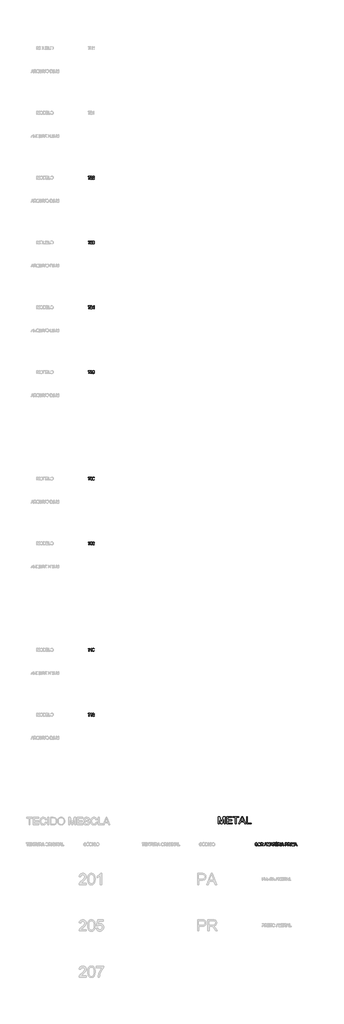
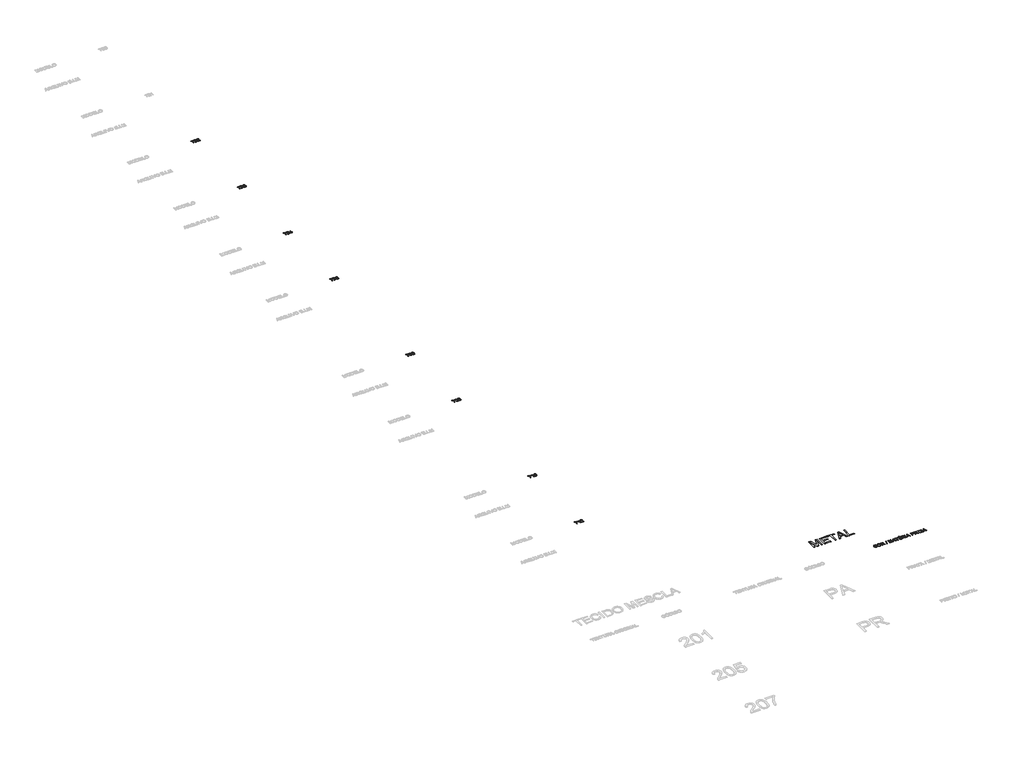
# One storey, part 17 of 19: 10 proxies.
"""IFC4 building model written with IfcOpenShell, lengths in millimetres."""

from ifc_helpers import new_model, si_unit, origin, origin_with_axes, place, context, project, spatial, polyline, outline, extrude, element, save

model = new_model("IFC4")

# Units and contexts
model_context = context("Model", 3, world=origin())
ifc_project = project(units=[si_unit("LENGTHUNIT", "METRE", prefix="MILLI")], contexts=[model_context])

# Site, building, storey
site = spatial("IfcSite", under=ifc_project)
building = spatial("IfcBuilding", under=site)
storey = spatial("IfcBuildingStorey", under=building, Name="Marelli - Linha ACTIVE - Planta Baixa", Elevation=0.0)

# Proxies
placement = place(None, origin())
element("IfcBuildingElementProxy", 1, Name="300mm Arial", ObjectType="300mm Arial", at=placement, inside=storey, context=model_context, shape_type="SweptSolid", body=[
    extrude(outline(polyline([(18804.1029253, -104673.4390831), (18841.7740416, -104683.1511677), (18834.3198327, -104706.5783531), (18824.3916173, -104727.0486868), (18811.9893956, -104744.5621691), (18797.1131674, -104759.1187998), (18780.0986251, -104770.5622291), (18761.2814611, -104778.7361071), (18740.6616752, -104783.640434), (18718.2392676, -104785.2752096), (18674.5440836, -104780.3271968), (18639.8436145, -104765.4831583), (18613.2457462, -104741.2581289), (18593.8583651, -104708.1671434), (18582.0217619, -104669.2636224), (18578.0762275, -104627.6009865), (18582.5367967, -104583.6574822), (18595.9185042, -104545.7104543), (18617.5223744, -104514.9647166), (18646.6494314, -104492.6250824), (18681.1935507, -104479.0226457), (18719.048608, -104474.4885001), (18760.352559, -104480.3562179), (18778.3212952, -104487.6908652), (18794.5012052, -104497.9593714), (18808.6255746, -104510.8904235), (18820.4276888, -104526.2127086), (18837.0651521, -104564.0309777), (18799.3940358, -104573.0072984), (18786.3342249, -104545.5357104), (18768.4919482, -104526.6909552), (18745.6464763, -104515.7924511), (18717.57708, -104512.1596164), (18685.2218586, -104516.1879242), (18658.6423844, -104528.2728478), (18638.473254, -104547.1451941), (18625.3490638, -104571.5357704), (18618.1477738, -104599.1085259), (18615.7473438, -104627.5274101), (18618.5892322, -104662.3290468), (18627.1148974, -104692.421794), (18641.6462362, -104716.6560205), (18662.5051454, -104733.8820949), (18687.511924, -104744.1735937), (18714.4868713, -104747.6040933), (18745.9315848, -104742.931992), (18772.1339799, -104728.9156879), (18791.9168342, -104705.7023341), (18804.1029253, -104673.4390831)])), origin_with_axes(), (0.0, 0.0, 1.0), 10.0),
    extrude(outline(polyline([(18879.4451579, -104633.8549804), (18881.9559525, -104598.5061192), (18889.4883364, -104567.213157), (18902.0423095, -104539.9760937), (18919.6178718, -104516.7949295), (18941.1619611, -104498.2858666), (18965.6215153, -104485.0651074), (18992.9965342, -104477.1326519), (19023.287018, -104474.4885001), (19062.8159384, -104479.454907), (19098.2613686, -104494.3541278), (19127.6919283, -104518.1376988), (19149.1762368, -104549.7571563), (19162.309624, -104587.68579), (19166.6874197, -104630.3968896), (19162.0796978, -104673.6782064), (19148.2565318, -104712.140269), (19125.981277, -104743.8149088), (19096.0172885, -104766.7339571), (19060.8753609, -104780.6398965), (19023.0662888, -104785.2752096), (18982.9303632, -104780.1524528), (18947.2825978, -104764.7841825), (18917.9256146, -104740.5591531), (18896.6620353, -104708.8661192), (18883.7493773, -104672.3998164), (18879.4451579, -104633.8549804)]), holes=[polyline([(18917.1162742, -104634.2228624), (18918.9993702, -104659.1974513), (18924.6486581, -104681.3669401), (18934.0641379, -104700.7313286), (18947.2458096, -104717.2906169), (18963.2693698, -104730.5527628), (18981.2105148, -104740.0257242), (19001.0692448, -104745.709501), (19022.8455596, -104747.6040933), (19044.994355, -104745.6911069), (19065.0876097, -104739.9521478), (19083.1253238, -104730.3872159), (19099.1074972, -104716.9963113), (19112.1925999, -104700.0875351), (19121.5391019, -104679.9689885), (19127.1470031, -104656.6406715), (19129.0163034, -104630.102584), (19125.8157301, -104596.7540812), (19116.21401, -104567.9305269), (19100.4594636, -104544.358488), (19078.8004111, -104526.7645316), (19052.6715924, -104515.8108452), (19023.5077472, -104512.1596164), (19002.4878897, -104513.9185522), (18982.9855455, -104519.1953595), (18965.0007144, -104527.9900385), (18948.5333966, -104540.302589), (18934.7884056, -104556.7262208), (18924.9705548, -104577.8541437), (18919.0798444, -104603.6863575), (18917.1162742, -104634.2228624)])]), origin_with_axes(), (0.0, 0.0, 1.0), 10.0),
    extrude(outline(polyline([(19218.4852047, -104780.5663201), (19218.4852047, -104479.1973896), (19348.347549, -104479.1973896), (19383.2503533, -104481.2299376), (19408.643408, -104487.3275817), (19427.2030546, -104498.5847708), (19441.6056347, -104516.0959537), (19450.8486699, -104537.8101885), (19453.9296816, -104561.6765329), (19448.8253189, -104591.36461), (19433.5122308, -104615.9759154), (19421.9124517, -104626.0052983), (19407.5305649, -104634.0205273), (19370.4204687, -104644.0085235), (19391.8312008, -104660.1217548), (19422.3654064, -104698.8965171), (19472.6180869, -104780.5663201), (19428.8401295, -104780.5663201), (19389.6239088, -104718.0999573), (19361.2969952, -104676.750021), (19341.3945793, -104657.2154871), (19323.4787261, -104650.0417882), (19301.6265356, -104648.717413), (19256.156321, -104648.717413), (19256.156321, -104780.5663201), (19218.4852047, -104780.5663201)]), holes=[polyline([(19256.156321, -104611.0462967), (19340.4748743, -104611.0462967), (19364.6907066, -104609.7127245), (19383.4802795, -104605.7120078), (19397.6253422, -104598.7774322), (19407.907644, -104588.6422832), (19414.170835, -104576.3826157), (19416.2585653, -104563.0744845), (19412.2762427, -104544.6987789), (19400.3292749, -104529.8915286), (19379.7738684, -104520.1242616), (19349.9662297, -104516.8685059), (19256.156321, -104516.8685059), (19256.156321, -104611.0462967)])]), origin_with_axes(), (0.0, 0.0, 1.0), 10.0),
    extrude(outline(polyline([(19604.6141468, -104780.5663201), (19689.3741585, -104479.1973896), (19723.3664548, -104479.1973896), (19638.6064432, -104780.5663201), (19604.6141468, -104780.5663201)])), origin_with_axes(), (0.0, 0.0, 1.0), 10.0),
    extrude(outline(polyline([(19873.0208505, -104780.5663201), (19873.0208505, -104479.1973896), (19937.841658, -104479.1973896), (19999.4986804, -104691.6124536), (20011.9330919, -104735.9790223), (20025.3975729, -104687.9336337), (20086.0245257, -104479.1973896), (20150.8453332, -104479.1973896), (20150.8453332, -104780.5663201), (20113.1742169, -104780.5663201), (20113.1742169, -104516.8685059), (20037.4641023, -104780.5663201), (19986.4020814, -104780.5663201), (19910.6919668, -104516.8685059), (19910.6919668, -104780.5663201), (19873.0208505, -104780.5663201)])), origin_with_axes(), (0.0, 0.0, 1.0), 10.0),
    extrude(outline(polyline([(20181.6738444, -104780.5663201), (20301.9712569, -104479.1973896), (20334.0505668, -104479.1973896), (20454.3479793, -104780.5663201), (20414.5431474, -104780.5663201), (20380.0358162, -104686.3885293), (20255.9124311, -104686.3885293), (20221.4786763, -104780.5663201), (20181.6738444, -104780.5663201)]), holes=[polyline([(20269.7447941, -104648.717413), (20366.2770296, -104648.717413), (20339.1273384, -104574.6259792), (20318.0109119, -104516.8685059), (20299.2489301, -104568.1512561), (20269.7447941, -104648.717413)])]), origin_with_axes(), (0.0, 0.0, 1.0), 10.0),
    extrude(outline(polyline([(20569.9365021, -104780.5663201), (20569.9365021, -104516.8685059), (20471.0498218, -104516.8685059), (20471.0498218, -104479.1973896), (20706.4942988, -104479.1973896), (20706.4942988, -104516.8685059), (20607.6076185, -104516.8685059), (20607.6076185, -104780.5663201), (20569.9365021, -104780.5663201)])), origin_with_axes(), (0.0, 0.0, 1.0), 10.0),
    extrude(outline(polyline([(20748.8743046, -104780.5663201), (20748.8743046, -104479.1973896), (20965.4832234, -104479.1973896), (20965.4832234, -104516.8685059), (20786.5454209, -104516.8685059), (20786.5454209, -104606.3374072), (20956.0654443, -104606.3374072), (20956.0654443, -104644.0085235), (20786.5454209, -104644.0085235), (20786.5454209, -104742.8952038), (20970.1921129, -104742.8952038), (20970.1921129, -104780.5663201), (20748.8743046, -104780.5663201)])), origin_with_axes(), (0.0, 0.0, 1.0), 10.0),
    extrude(outline(polyline([(20833.6343163, -104460.3618315), (20861.8876535, -104403.855157), (20908.9765489, -104403.855157), (20861.8876535, -104460.3618315), (20833.6343163, -104460.3618315)])), origin_with_axes(), (0.0, 0.0, 1.0), 10.0),
    extrude(outline(polyline([(21026.6987874, -104780.5663201), (21026.6987874, -104479.1973896), (21156.5611317, -104479.1973896), (21191.463936, -104481.2299376), (21216.8569907, -104487.3275817), (21235.4166373, -104498.5847708), (21249.8192174, -104516.0959537), (21259.0622526, -104537.8101885), (21262.1432643, -104561.6765329), (21257.0389016, -104591.36461), (21241.7258135, -104615.9759154), (21230.1260344, -104626.0052983), (21215.7441476, -104634.0205273), (21178.6340514, -104644.0085235), (21200.0447835, -104660.1217548), (21230.5789891, -104698.8965171), (21280.8316696, -104780.5663201), (21237.0537122, -104780.5663201), (21197.8374915, -104718.0999573), (21169.5105779, -104676.750021), (21149.6081619, -104657.2154871), (21131.6923088, -104650.0417882), (21109.8401183, -104648.717413), (21064.3699037, -104648.717413), (21064.3699037, -104780.5663201), (21026.6987874, -104780.5663201)]), holes=[polyline([(21064.3699037, -104611.0462967), (21148.688457, -104611.0462967), (21172.9042893, -104609.7127245), (21191.6938622, -104605.7120078), (21205.8389249, -104598.7774322), (21216.1212267, -104588.6422832), (21222.3844176, -104576.3826157), (21224.472148, -104563.0744845), (21220.4898254, -104544.6987789), (21208.5428576, -104529.8915286), (21187.9874511, -104520.1242616), (21158.1798124, -104516.8685059), (21064.3699037, -104516.8685059), (21064.3699037, -104611.0462967)])]), origin_with_axes(), (0.0, 0.0, 1.0), 10.0),
    extrude(outline(polyline([(21332.7766073, -104780.5663201), (21332.7766073, -104479.1973896), (21370.4477237, -104479.1973896), (21370.4477237, -104780.5663201), (21332.7766073, -104780.5663201)])), origin_with_axes(), (0.0, 0.0, 1.0), 10.0),
    extrude(outline(polyline([(21410.6940139, -104780.5663201), (21530.9914263, -104479.1973896), (21563.0707363, -104479.1973896), (21683.3681488, -104780.5663201), (21643.5633169, -104780.5663201), (21609.0559857, -104686.3885293), (21484.9326006, -104686.3885293), (21450.4988458, -104780.5663201), (21410.6940139, -104780.5663201)]), holes=[polyline([(21498.7649636, -104648.717413), (21595.2971991, -104648.717413), (21568.1475079, -104574.6259792), (21547.0310813, -104516.8685059), (21528.2690996, -104568.1512561), (21498.7649636, -104648.717413)])]), origin_with_axes(), (0.0, 0.0, 1.0), 10.0),
    extrude(outline(polyline([(21841.3366775, -104780.5663201), (21841.3366775, -104479.1973896), (21953.0256512, -104479.1973896), (21998.0544074, -104482.0668692), (22018.1315673, -104487.4287493), (22034.6586659, -104496.1567496), (22047.9667971, -104508.6463433), (22058.3870546, -104525.2930036), (22065.1192951, -104544.9287051), (22067.3633753, -104566.3854225), (22065.8481613, -104584.8852883), (22061.3025194, -104601.9044291), (22053.7264496, -104617.4428449), (22043.1199518, -104631.5005356), (22028.5587226, -104643.1531978), (22009.1184584, -104651.476528), (21984.7991593, -104656.470526), (21955.6008252, -104658.1351921), (21879.0077938, -104658.1351921), (21879.0077938, -104780.5663201), (21841.3366775, -104780.5663201)]), holes=[polyline([(21879.0077938, -104620.4640758), (21957.8081172, -104620.4640758), (21991.2118023, -104617.005985), (22013.284722, -104606.6317128), (22025.5903748, -104589.9850525), (22029.692259, -104567.7097977), (22027.2734349, -104550.7872259), (22020.0169625, -104536.5134045), (22008.8241528, -104525.7712502), (21994.5963167, -104519.4436799), (21956.9252004, -104516.8685059), (21879.0077938, -104516.8685059), (21879.0077938, -104620.4640758)])]), origin_with_axes(), (0.0, 0.0, 1.0), 10.0),
    extrude(outline(polyline([(22119.1611602, -104780.5663201), (22119.1611602, -104479.1973896), (22249.0235045, -104479.1973896), (22283.9263088, -104481.2299376), (22309.3193635, -104487.3275817), (22327.8790102, -104498.5847708), (22342.2815903, -104516.0959537), (22351.5246254, -104537.8101885), (22354.6056372, -104561.6765329), (22349.5012745, -104591.36461), (22334.1881864, -104615.9759154), (22322.5884073, -104626.0052983), (22308.2065205, -104634.0205273), (22271.0964242, -104644.0085235), (22292.5071564, -104660.1217548), (22323.041362, -104698.8965171), (22373.2940425, -104780.5663201), (22329.5160851, -104780.5663201), (22290.2998644, -104718.0999573), (22261.9729508, -104676.750021), (22242.0705348, -104657.2154871), (22224.1546817, -104650.0417882), (22202.3024911, -104648.717413), (22156.8322765, -104648.717413), (22156.8322765, -104780.5663201), (22119.1611602, -104780.5663201)]), holes=[polyline([(22156.8322765, -104611.0462967), (22241.1508298, -104611.0462967), (22265.3666622, -104609.7127245), (22284.1562351, -104605.7120078), (22298.3012978, -104598.7774322), (22308.5835996, -104588.6422832), (22314.8467905, -104576.3826157), (22316.9345208, -104563.0744845), (22312.9521982, -104544.6987789), (22301.0052305, -104529.8915286), (22280.449824, -104520.1242616), (22250.6421853, -104516.8685059), (22156.8322765, -104516.8685059), (22156.8322765, -104611.0462967)])]), origin_with_axes(), (0.0, 0.0, 1.0), 10.0),
    extrude(outline(polyline([(22425.2389802, -104780.5663201), (22425.2389802, -104479.1973896), (22462.9100965, -104479.1973896), (22462.9100965, -104780.5663201), (22425.2389802, -104780.5663201)])), origin_with_axes(), (0.0, 0.0, 1.0), 10.0),
    extrude(outline(polyline([(22538.2523291, -104780.5663201), (22538.2523291, -104479.1973896), (22603.0731367, -104479.1973896), (22664.7301591, -104691.6124536), (22677.1645705, -104735.9790223), (22690.6290515, -104687.9336337), (22751.2560044, -104479.1973896), (22816.0768119, -104479.1973896), (22816.0768119, -104780.5663201), (22778.4056956, -104780.5663201), (22778.4056956, -104516.8685059), (22702.695581, -104780.5663201), (22651.6335601, -104780.5663201), (22575.9234454, -104516.8685059), (22575.9234454, -104780.5663201), (22538.2523291, -104780.5663201)])), origin_with_axes(), (0.0, 0.0, 1.0), 10.0),
    extrude(outline(polyline([(22846.9053231, -104780.5663201), (22967.2027355, -104479.1973896), (22999.2820455, -104479.1973896), (23119.5794579, -104780.5663201), (23079.774626, -104780.5663201), (23045.2672949, -104686.3885293), (22921.1439097, -104686.3885293), (22886.710155, -104780.5663201), (22846.9053231, -104780.5663201)]), holes=[polyline([(22934.9762727, -104648.717413), (23031.5085083, -104648.717413), (23004.358817, -104574.6259792), (22983.2423905, -104516.8685059), (22964.4804088, -104568.1512561), (22934.9762727, -104648.717413)])]), origin_with_axes(), (0.0, 0.0, 1.0), 10.0),
])
element("IfcBuildingElementProxy", 2, Name="300mm Arial", ObjectType="300mm Arial", at=placement, inside=storey, context=model_context, shape_type="SweptSolid", body=[
    extrude(outline(polyline([(574.6453917, -32521.5773955), (574.6453917, -32483.9062792), (772.4187523, -32483.9062792), (772.4187523, -32514.3669084), (744.2297944, -32550.0422648), (716.316748, -32595.4113119), (691.6962455, -32646.3353771), (673.3849192, -32698.6757879), (664.4085985, -32737.8368263), (659.4054034, -32780.5663201), (621.7342871, -32780.5663201), (625.8085802, -32741.7363755), (636.7070843, -32695.5855792), (654.1354938, -32646.6664709), (677.7995031, -32599.5315902), (705.427441, -32556.9216582), (734.747636, -32521.5773955), (574.6453917, -32521.5773955)])), origin_with_axes(), (0.0, 0.0, 1.0), 10.0),
    extrude(outline(polyline([(998.4454501, -32742.8952038), (998.4454501, -32780.5663201), (800.6720895, -32780.5663201), (804.7187915, -32754.5938512), (814.0078118, -32734.2959621), (827.6010516, -32714.6050783), (847.2643442, -32693.9944896), (874.7635234, -32670.9374855), (915.4144838, -32634.8298677), (939.8050601, -32608.1768171), (952.0003482, -32586.5453558), (956.0654443, -32565.5025057), (952.2302745, -32546.6393564), (940.7247651, -32530.9583863), (923.0388382, -32520.390976), (900.6624158, -32516.8685059), (877.1639534, -32520.3082026), (858.9078094, -32530.6272925), (847.1263885, -32547.0164354), (843.0520954, -32568.6662908), (805.3809791, -32563.9574013), (814.5136496, -32527.5186897), (823.0600082, -32512.9827524), (834.2597157, -32500.9024273), (847.8552547, -32491.4064733), (863.5891077, -32484.623649), (901.4717562, -32479.1973896), (921.66158, -32480.7057058), (939.6303162, -32485.2306543), (955.3779648, -32492.7722352), (968.9045259, -32503.3304485), (979.7685411, -32516.1235449), (987.5285519, -32530.3697751), (992.1845584, -32546.0691393), (993.7365606, -32563.2216373), (992.0626975, -32581.238658), (987.0411083, -32598.942979), (978.1291669, -32616.9508027), (964.7842476, -32635.8783314), (943.5114712, -32658.4754829), (910.8159589, -32687.4921753), (867.4794598, -32723.7285518), (850.4833117, -32742.8952038), (998.4454501, -32742.8952038)])), origin_with_axes(), (0.0, 0.0, 1.0), 10.0),
    extrude(outline(polyline([(1229.1810375, -32742.8952038), (1229.1810375, -32780.5663201), (1031.4076769, -32780.5663201), (1035.4543788, -32754.5938512), (1044.7433992, -32734.2959621), (1058.3366389, -32714.6050783), (1077.9999316, -32693.9944896), (1105.4991107, -32670.9374855), (1146.1500712, -32634.8298677), (1170.5406475, -32608.1768171), (1182.7359356, -32586.5453558), (1186.8010317, -32565.5025057), (1182.9658619, -32546.6393564), (1171.4603525, -32530.9583863), (1153.7744255, -32520.390976), (1131.3980032, -32516.8685059), (1107.8995407, -32520.3082026), (1089.6433967, -32530.6272925), (1077.8619758, -32547.0164354), (1073.7876827, -32568.6662908), (1036.1165664, -32563.9574013), (1045.249237, -32527.5186897), (1053.7955956, -32512.9827524), (1064.9953031, -32500.9024273), (1078.590842, -32491.4064733), (1094.3246951, -32484.623649), (1132.2073436, -32479.1973896), (1152.3971673, -32480.7057058), (1170.3659035, -32485.2306543), (1186.1135522, -32492.7722352), (1199.6401133, -32503.3304485), (1210.5041285, -32516.1235449), (1218.2641393, -32530.3697751), (1222.9201458, -32546.0691393), (1224.472148, -32563.2216373), (1222.7982849, -32581.238658), (1217.7766957, -32598.942979), (1208.8647543, -32616.9508027), (1195.5198349, -32635.8783314), (1174.2470586, -32658.4754829), (1141.5515463, -32687.4921753), (1098.2150472, -32723.7285518), (1081.218899, -32742.8952038), (1229.1810375, -32742.8952038)])), origin_with_axes(), (0.0, 0.0, 1.0), 10.0),
])
element("IfcBuildingElementProxy", 3, Name="300mm Arial", ObjectType="300mm Arial", at=placement, inside=storey, context=model_context, shape_type="SweptSolid", body=[
    extrude(outline(polyline([(574.6453917, -39521.5773955), (574.6453917, -39483.9062792), (772.4187523, -39483.9062792), (772.4187523, -39514.3669084), (744.2297944, -39550.0422648), (716.316748, -39595.4113119), (691.6962455, -39646.3353771), (673.3849192, -39698.6757879), (664.4085985, -39737.8368263), (659.4054034, -39780.5663201), (621.7342871, -39780.5663201), (625.8085802, -39741.7363755), (636.7070843, -39695.5855792), (654.1354938, -39646.6664709), (677.7995031, -39599.5315902), (705.427441, -39556.9216582), (734.747636, -39521.5773955), (574.6453917, -39521.5773955)])), origin_with_axes(), (0.0, 0.0, 1.0), 10.0),
    extrude(outline(polyline([(998.4454501, -39742.8952038), (998.4454501, -39780.5663201), (800.6720895, -39780.5663201), (804.7187915, -39754.5938512), (814.0078118, -39734.2959621), (827.6010516, -39714.6050783), (847.2643442, -39693.9944896), (874.7635234, -39670.9374855), (915.4144838, -39634.8298677), (939.8050601, -39608.1768171), (952.0003482, -39586.5453558), (956.0654443, -39565.5025057), (952.2302745, -39546.6393564), (940.7247651, -39530.9583863), (923.0388382, -39520.390976), (900.6624158, -39516.8685059), (877.1639534, -39520.3082026), (858.9078094, -39530.6272925), (847.1263885, -39547.0164354), (843.0520954, -39568.6662908), (805.3809791, -39563.9574013), (814.5136496, -39527.5186897), (823.0600082, -39512.9827524), (834.2597157, -39500.9024273), (847.8552547, -39491.4064733), (863.5891077, -39484.623649), (901.4717562, -39479.1973896), (921.66158, -39480.7057058), (939.6303162, -39485.2306543), (955.3779648, -39492.7722352), (968.9045259, -39503.3304485), (979.7685411, -39516.1235449), (987.5285519, -39530.3697751), (992.1845584, -39546.0691393), (993.7365606, -39563.2216373), (992.0626975, -39581.238658), (987.0411083, -39598.942979), (978.1291669, -39616.9508027), (964.7842476, -39635.8783314), (943.5114712, -39658.4754829), (910.8159589, -39687.4921753), (867.4794598, -39723.7285518), (850.4833117, -39742.8952038), (998.4454501, -39742.8952038)])), origin_with_axes(), (0.0, 0.0, 1.0), 10.0),
    extrude(outline(polyline([(1036.1165664, -39700.5151979), (1073.7876827, -39695.8063084), (1082.2213775, -39719.4795148), (1094.5730155, -39735.4639875), (1111.449602, -39744.5690668), (1133.4581424, -39747.6040933), (1159.2834584, -39743.4286327), (1179.2226626, -39730.9022507), (1191.9697737, -39712.2138454), (1196.2188107, -39689.5523145), (1192.0065619, -39668.0404148), (1179.3698154, -39650.5936112), (1160.2399516, -39639.0329195), (1136.5483511, -39635.1793556), (1110.1344239, -39639.2996339), (1114.3282786, -39601.6285176), (1120.3615433, -39602.069976), (1142.9311037, -39599.3660433), (1163.1094312, -39591.2542454), (1177.3464644, -39577.5322469), (1182.0921421, -39557.997713), (1178.6524455, -39541.7281317), (1168.3333555, -39528.5303652), (1152.5880061, -39519.7839707), (1132.8695312, -39516.8685059), (1113.114268, -39519.8115619), (1096.9642484, -39528.6407298), (1085.1736305, -39543.3560096), (1078.4965723, -39563.9574013), (1040.825456, -39559.2485118), (1051.9170981, -39525.4217623), (1071.6539672, -39500.1666633), (1098.6565056, -39484.4397081), (1131.545156, -39479.1973896), (1155.2275594, -39481.7817606), (1176.9785824, -39489.5348737), (1195.3174999, -39501.76695), (1208.7635868, -39517.7882109), (1217.0133405, -39536.24669), (1219.7632584, -39555.790421), (1217.1512963, -39574.0005798), (1209.3154098, -39590.5184814), (1196.3659635, -39604.5899677), (1178.4133222, -39615.4608806), (1201.9945581, -39624.9890243), (1219.4689528, -39641.2126203), (1230.2846835, -39663.2487518), (1233.889927, -39690.2145021), (1232.0873053, -39709.3259717), (1226.6794399, -39726.9291252), (1217.6663311, -39743.0239625), (1205.0479786, -39757.6104836), (1189.6751097, -39769.7138012), (1172.3984516, -39778.3590281), (1153.218004, -39783.5461642), (1132.1337672, -39785.2752096), (1113.0774798, -39783.7990831), (1095.7134497, -39779.3707036), (1080.0416767, -39771.9900711), (1066.0621608, -39761.6571855), (1054.3405208, -39748.9790523), (1045.442375, -39734.5626766), (1039.3677236, -39718.4080585), (1036.1165664, -39700.5151979)])), origin_with_axes(), (0.0, 0.0, 1.0), 10.0),
])
element("IfcBuildingElementProxy", 4, Name="300mm Arial", ObjectType="300mm Arial", at=placement, inside=storey, context=model_context, shape_type="SweptSolid", body=[
    extrude(outline(polyline([(574.6453917, -46521.5773955), (574.6453917, -46483.9062792), (772.4187523, -46483.9062792), (772.4187523, -46514.3669084), (744.2297944, -46550.0422648), (716.316748, -46595.4113119), (691.6962455, -46646.3353771), (673.3849192, -46698.6757879), (664.4085985, -46737.8368263), (659.4054034, -46780.5663201), (621.7342871, -46780.5663201), (625.8085802, -46741.7363755), (636.7070843, -46695.5855792), (654.1354938, -46646.6664709), (677.7995031, -46599.5315902), (705.427441, -46556.9216582), (734.747636, -46521.5773955), (574.6453917, -46521.5773955)])), origin_with_axes(), (0.0, 0.0, 1.0), 10.0),
    extrude(outline(polyline([(998.4454501, -46742.8952038), (998.4454501, -46780.5663201), (800.6720895, -46780.5663201), (804.7187915, -46754.5938512), (814.0078118, -46734.2959621), (827.6010516, -46714.6050783), (847.2643442, -46693.9944896), (874.7635234, -46670.9374855), (915.4144838, -46634.8298677), (939.8050601, -46608.1768171), (952.0003482, -46586.5453558), (956.0654443, -46565.5025057), (952.2302745, -46546.6393564), (940.7247651, -46530.9583863), (923.0388382, -46520.390976), (900.6624158, -46516.8685059), (877.1639534, -46520.3082026), (858.9078094, -46530.6272925), (847.1263885, -46547.0164354), (843.0520954, -46568.6662908), (805.3809791, -46563.9574013), (814.5136496, -46527.5186897), (823.0600082, -46512.9827524), (834.2597157, -46500.9024273), (847.8552547, -46491.4064733), (863.5891077, -46484.623649), (901.4717562, -46479.1973896), (921.66158, -46480.7057058), (939.6303162, -46485.2306543), (955.3779648, -46492.7722352), (968.9045259, -46503.3304485), (979.7685411, -46516.1235449), (987.5285519, -46530.3697751), (992.1845584, -46546.0691393), (993.7365606, -46563.2216373), (992.0626975, -46581.238658), (987.0411083, -46598.942979), (978.1291669, -46616.9508027), (964.7842476, -46635.8783314), (943.5114712, -46658.4754829), (910.8159589, -46687.4921753), (867.4794598, -46723.7285518), (850.4833117, -46742.8952038), (998.4454501, -46742.8952038)])), origin_with_axes(), (0.0, 0.0, 1.0), 10.0),
    extrude(outline(polyline([(1158.5476944, -46780.5663201), (1158.5476944, -46709.932977), (1021.9898978, -46709.932977), (1021.9898978, -46672.2618607), (1167.9654735, -46483.9062792), (1196.2188107, -46483.9062792), (1196.2188107, -46672.2618607), (1233.889927, -46672.2618607), (1233.889927, -46709.932977), (1196.2188107, -46709.932977), (1196.2188107, -46780.5663201), (1158.5476944, -46780.5663201)]), holes=[polyline([(1158.5476944, -46672.2618607), (1158.5476944, -46555.8639974), (1068.3430292, -46672.2618607), (1158.5476944, -46672.2618607)])]), origin_with_axes(), (0.0, 0.0, 1.0), 10.0),
])
element("IfcBuildingElementProxy", 5, Name="300mm Arial", ObjectType="300mm Arial", at=placement, inside=storey, context=model_context, shape_type="SweptSolid", body=[
    extrude(outline(polyline([(574.6453917, -53521.5773955), (574.6453917, -53483.9062792), (772.4187523, -53483.9062792), (772.4187523, -53514.3669084), (744.2297944, -53550.0422648), (716.316748, -53595.4113119), (691.6962455, -53646.3353771), (673.3849192, -53698.6757879), (664.4085985, -53737.8368263), (659.4054034, -53780.5663201), (621.7342871, -53780.5663201), (625.8085802, -53741.7363755), (636.7070843, -53695.5855792), (654.1354938, -53646.6664709), (677.7995031, -53599.5315902), (705.427441, -53556.9216582), (734.747636, -53521.5773955), (574.6453917, -53521.5773955)])), origin_with_axes(), (0.0, 0.0, 1.0), 10.0),
    extrude(outline(polyline([(998.4454501, -53742.8952038), (998.4454501, -53780.5663201), (800.6720895, -53780.5663201), (804.7187915, -53754.5938512), (814.0078118, -53734.2959621), (827.6010516, -53714.6050783), (847.2643442, -53693.9944896), (874.7635234, -53670.9374855), (915.4144838, -53634.8298677), (939.8050601, -53608.1768171), (952.0003482, -53586.5453558), (956.0654443, -53565.5025057), (952.2302745, -53546.6393564), (940.7247651, -53530.9583863), (923.0388382, -53520.390976), (900.6624158, -53516.8685059), (877.1639534, -53520.3082026), (858.9078094, -53530.6272925), (847.1263885, -53547.0164354), (843.0520954, -53568.6662908), (805.3809791, -53563.9574013), (814.5136496, -53527.5186897), (823.0600082, -53512.9827524), (834.2597157, -53500.9024273), (847.8552547, -53491.4064733), (863.5891077, -53484.623649), (901.4717562, -53479.1973896), (921.66158, -53480.7057058), (939.6303162, -53485.2306543), (955.3779648, -53492.7722352), (968.9045259, -53503.3304485), (979.7685411, -53516.1235449), (987.5285519, -53530.3697751), (992.1845584, -53546.0691393), (993.7365606, -53563.2216373), (992.0626975, -53581.238658), (987.0411083, -53598.942979), (978.1291669, -53616.9508027), (964.7842476, -53635.8783314), (943.5114712, -53658.4754829), (910.8159589, -53687.4921753), (867.4794598, -53723.7285518), (850.4833117, -53742.8952038), (998.4454501, -53742.8952038)])), origin_with_axes(), (0.0, 0.0, 1.0), 10.0),
    extrude(outline(polyline([(1036.1165664, -53700.5151979), (1073.7876827, -53695.8063084), (1080.7038643, -53718.421854), (1092.7703937, -53734.6178589), (1109.9320888, -53744.3575347), (1132.1337672, -53747.6040933), (1159.1363056, -53743.0883418), (1179.3698154, -53729.5410873), (1192.0065619, -53708.5258284), (1196.2188107, -53681.6060634), (1192.2732763, -53656.2589939), (1180.4366731, -53636.8716128), (1160.6170307, -53624.56596), (1132.7223784, -53620.4640758), (1114.4478403, -53622.1011506), (1099.649787, -53627.0123753), (1078.4965723, -53644.0085235), (1040.825456, -53639.2996339), (1073.7876827, -53483.9062792), (1219.7632584, -53483.9062792), (1219.7632584, -53521.5773955), (1104.2483119, -53521.5773955), (1088.1350806, -53604.5715736), (1115.0456485, -53588.237613), (1143.2438034, -53582.7929595), (1161.5896187, -53584.4806181), (1178.4409133, -53589.5435941), (1193.7976874, -53597.9818873), (1207.6599408, -53609.7954979), (1219.1355598, -53624.2624574), (1227.3324305, -53640.6607973), (1232.2505529, -53658.9905177), (1233.889927, -53679.2516186), (1227.985421, -53716.9227349), (1220.6047885, -53733.716548), (1210.271903, -53749.1491977), (1194.6185241, -53764.9543279), (1176.353183, -53776.2437066), (1155.4758798, -53783.0173339), (1131.9866144, -53785.2752096), (1094.9868827, -53779.4718711), (1079.3082119, -53772.217698), (1065.5103379, -53762.0618557), (1054.0301203, -53749.5101819), (1045.3044193, -53735.0685143), (1036.1165664, -53700.5151979)])), origin_with_axes(), (0.0, 0.0, 1.0), 10.0),
])
element("IfcBuildingElementProxy", 6, Name="300mm Arial", ObjectType="300mm Arial", at=placement, inside=storey, context=model_context, shape_type="SweptSolid", body=[
    extrude(outline(polyline([(574.6453917, -65021.5773955), (574.6453917, -64983.9062792), (772.4187523, -64983.9062792), (772.4187523, -65014.3669084), (744.2297944, -65050.0422648), (716.316748, -65095.4113119), (691.6962455, -65146.3353771), (673.3849192, -65198.6757879), (664.4085985, -65237.8368263), (659.4054034, -65280.5663201), (621.7342871, -65280.5663201), (625.8085802, -65241.7363755), (636.7070843, -65195.5855792), (654.1354938, -65146.6664709), (677.7995031, -65099.5315902), (705.427441, -65056.9216582), (734.747636, -65021.5773955), (574.6453917, -65021.5773955)])), origin_with_axes(), (0.0, 0.0, 1.0), 10.0),
    extrude(outline(polyline([(805.3809791, -65132.309876), (808.1492911, -65084.0713494), (816.4542271, -65045.6000897), (830.2130137, -65016.3074859), (849.3428775, -64995.6049266), (873.9817741, -64983.2992739), (904.2676594, -64979.1973896), (927.4810133, -64981.6254108), (948.266346, -64988.9094743), (965.6487703, -65000.7644716), (978.6533988, -65016.9052941), (988.4758481, -65037.1939862), (996.3117346, -65061.4925919), (1001.4436884, -65092.3486943), (1003.1543397, -65132.309876), (1000.4136188, -65180.2724911), (992.1914562, -65218.6517803), (978.515443, -65247.9719753), (959.4131704, -65268.757308), (934.7190915, -65281.1457342), (904.2676594, -65285.2752096), (883.5191148, -65283.4817849), (865.1250151, -65278.1015107), (849.0853601, -65269.1343871), (835.4001499, -65256.580414), (822.2667626, -65233.8866934), (812.8857718, -65205.6103636), (807.2571772, -65171.7514244), (805.3809791, -65132.309876)]), holes=[polyline([(843.0520954, -65132.2362996), (847.4666793, -65191.492892), (852.9849092, -65211.7608907), (860.7104311, -65225.788691), (880.4289061, -65242.1502427), (904.2676594, -65247.6040933), (928.1064127, -65242.1318486), (947.8248876, -65225.7151146), (955.5504095, -65211.6643216), (961.0686394, -65191.4009215), (965.4832234, -65132.2362996), (961.2157922, -65074.3132795), (955.8815033, -65054.1119594), (948.4134988, -65039.750766), (928.731812, -65022.589071), (903.826201, -65016.8685059), (880.2449651, -65021.9084893), (861.2990423, -65037.0284393), (853.316003, -65052.6634241), (847.6138321, -65073.7430624), (843.0520954, -65132.2362996)])]), origin_with_axes(), (0.0, 0.0, 1.0), 10.0),
    extrude(outline(polyline([(1036.1165664, -65132.309876), (1038.8848785, -65084.0713494), (1047.1898145, -65045.6000897), (1060.9486011, -65016.3074859), (1080.0784649, -64995.6049266), (1104.7173615, -64983.2992739), (1135.0032467, -64979.1973896), (1158.2166006, -64981.6254108), (1179.0019334, -64988.9094743), (1196.3843576, -65000.7644716), (1209.3889862, -65016.9052941), (1219.2114354, -65037.1939862), (1227.0473219, -65061.4925919), (1232.1792758, -65092.3486943), (1233.889927, -65132.309876), (1231.1492062, -65180.2724911), (1222.9270436, -65218.6517803), (1209.2510304, -65247.9719753), (1190.1487578, -65268.757308), (1165.4546789, -65281.1457342), (1135.0032467, -65285.2752096), (1114.2547022, -65283.4817849), (1095.8606025, -65278.1015107), (1079.8209475, -65269.1343871), (1066.1357372, -65256.580414), (1053.00235, -65233.8866934), (1043.6213591, -65205.6103636), (1037.9927646, -65171.7514244), (1036.1165664, -65132.309876)]), holes=[polyline([(1073.7876827, -65132.2362996), (1078.2022667, -65191.492892), (1083.7204966, -65211.7608907), (1091.4460185, -65225.788691), (1111.1644935, -65242.1502427), (1135.0032467, -65247.6040933), (1158.842, -65242.1318486), (1178.560475, -65225.7151146), (1186.2859969, -65211.6643216), (1191.8042268, -65191.4009215), (1196.2188107, -65132.2362996), (1191.9513796, -65074.3132795), (1186.6170907, -65054.1119594), (1179.1490862, -65039.750766), (1159.4673994, -65022.589071), (1134.5617883, -65016.8685059), (1110.9805525, -65021.9084893), (1092.0346297, -65037.0284393), (1084.0515904, -65052.6634241), (1078.3494195, -65073.7430624), (1073.7876827, -65132.2362996)])]), origin_with_axes(), (0.0, 0.0, 1.0), 10.0),
])
element("IfcBuildingElementProxy", 7, Name="300mm Arial", ObjectType="300mm Arial", at=placement, inside=storey, context=model_context, shape_type="SweptSolid", body=[
    extrude(outline(polyline([(574.6453917, -72021.5773955), (574.6453917, -71983.9062792), (772.4187523, -71983.9062792), (772.4187523, -72014.3669084), (744.2297944, -72050.0422648), (716.316748, -72095.4113119), (691.6962455, -72146.3353771), (673.3849192, -72198.6757879), (664.4085985, -72237.8368263), (659.4054034, -72280.5663201), (621.7342871, -72280.5663201), (625.8085802, -72241.7363755), (636.7070843, -72195.5855792), (654.1354938, -72146.6664709), (677.7995031, -72099.5315902), (705.427441, -72056.9216582), (734.747636, -72021.5773955), (574.6453917, -72021.5773955)])), origin_with_axes(), (0.0, 0.0, 1.0), 10.0),
    extrude(outline(polyline([(805.3809791, -72132.309876), (808.1492911, -72084.0713494), (816.4542271, -72045.6000897), (830.2130137, -72016.3074859), (849.3428775, -71995.6049266), (873.9817741, -71983.2992739), (904.2676594, -71979.1973896), (927.4810133, -71981.6254108), (948.266346, -71988.9094743), (965.6487703, -72000.7644716), (978.6533988, -72016.9052941), (988.4758481, -72037.1939862), (996.3117346, -72061.4925919), (1001.4436884, -72092.3486943), (1003.1543397, -72132.309876), (1000.4136188, -72180.2724911), (992.1914562, -72218.6517803), (978.515443, -72247.9719753), (959.4131704, -72268.757308), (934.7190915, -72281.1457342), (904.2676594, -72285.2752096), (883.5191148, -72283.4817849), (865.1250151, -72278.1015107), (849.0853601, -72269.1343871), (835.4001499, -72256.580414), (822.2667626, -72233.8866934), (812.8857718, -72205.6103636), (807.2571772, -72171.7514244), (805.3809791, -72132.309876)]), holes=[polyline([(843.0520954, -72132.2362996), (847.4666793, -72191.492892), (852.9849092, -72211.7608907), (860.7104311, -72225.788691), (880.4289061, -72242.1502427), (904.2676594, -72247.6040933), (928.1064127, -72242.1318486), (947.8248876, -72225.7151146), (955.5504095, -72211.6643216), (961.0686394, -72191.4009215), (965.4832234, -72132.2362996), (961.2157922, -72074.3132795), (955.8815033, -72054.1119594), (948.4134988, -72039.750766), (928.731812, -72022.589071), (903.826201, -72016.8685059), (880.2449651, -72021.9084893), (861.2990423, -72037.0284393), (853.316003, -72052.6634241), (847.6138321, -72073.7430624), (843.0520954, -72132.2362996)])]), origin_with_axes(), (0.0, 0.0, 1.0), 10.0),
    extrude(outline(polyline([(1229.1810375, -72059.2485118), (1191.5099212, -72063.9574013), (1185.4398683, -72045.2873901), (1177.2360998, -72032.5402789), (1160.1479811, -72020.7864492), (1139.4914071, -72016.8685059), (1121.9802241, -72019.1493743), (1105.4991107, -72025.9919794), (1091.344851, -72040.4037566), (1079.7841593, -72060.2417932), (1071.9758639, -72088.3019923), (1069.0787932, -72127.3802573), (1084.1895462, -72109.7495127), (1102.2985374, -72097.3242983), (1122.3940914, -72089.9574613), (1143.4645326, -72087.501849), (1161.5643268, -72089.1803106), (1178.2661694, -72094.2156954), (1193.5700604, -72102.6080034), (1207.4759998, -72114.3572346), (1219.032093, -72128.7644133), (1227.2864452, -72145.1305635), (1232.2390566, -72163.4556854), (1233.889927, -72183.7397789), (1230.7813242, -72210.7147262), (1221.4555156, -72235.7215049), (1206.6850535, -72256.9299019), (1187.2424901, -72272.5097044), (1164.0107421, -72282.0838333), (1137.8727263, -72285.2752096), (1115.4158298, -72283.1598881), (1095.1340355, -72276.8139237), (1077.0273436, -72266.2373164), (1061.0957539, -72251.4300661), (1048.1072202, -72231.7667734), (1038.8296962, -72206.622039), (1033.2631817, -72175.9958629), (1031.4076769, -72139.8882451), (1033.4678161, -72099.4074301), (1039.6482336, -72064.8587122), (1049.9489295, -72036.2420915), (1064.3699037, -72013.557568), (1080.0002899, -71998.5249899), (1098.1230767, -71987.7874342), (1118.738264, -71981.3449008), (1141.8458519, -71979.1973896), (1174.9000491, -71984.5132844), (1201.3691587, -72000.4609689), (1219.9104112, -72025.7896443), (1229.1810375, -72059.2485118)]), holes=[polyline([(1069.0787932, -72183.1511677), (1071.258494, -72199.8438133), (1077.7975965, -72215.7823007), (1087.9511396, -72229.485905), (1100.9741622, -72239.4739012), (1116.6919204, -72245.5715453), (1134.9296703, -72247.6040933), (1159.7892962, -72243.3918445), (1179.3330272, -72230.7550979), (1191.9973648, -72210.8894702), (1196.2188107, -72184.9905777), (1192.0525471, -72160.1309519), (1179.5537564, -72141.1758321), (1159.6789316, -72129.173682), (1133.384566, -72125.1729653), (1108.5617283, -72129.173682), (1087.8039868, -72141.1758321), (1073.7600916, -72159.6710994), (1069.0787932, -72183.1511677)])]), origin_with_axes(), (0.0, 0.0, 1.0), 10.0),
])
element("IfcBuildingElementProxy", 8, Name="300mm Arial", ObjectType="300mm Arial", at=placement, inside=storey, context=model_context, shape_type="SweptSolid", body=[
    extrude(outline(polyline([(574.6453917, -83521.5773955), (574.6453917, -83483.9062792), (772.4187523, -83483.9062792), (772.4187523, -83514.3669084), (744.2297944, -83550.0422648), (716.316748, -83595.4113119), (691.6962455, -83646.3353771), (673.3849192, -83698.6757879), (664.4085985, -83737.8368263), (659.4054034, -83780.5663201), (621.7342871, -83780.5663201), (625.8085802, -83741.7363755), (636.7070843, -83695.5855792), (654.1354938, -83646.6664709), (677.7995031, -83599.5315902), (705.427441, -83556.9216582), (734.747636, -83521.5773955), (574.6453917, -83521.5773955)])), origin_with_axes(), (0.0, 0.0, 1.0), 10.0),
    extrude(outline(polyline([(946.6476652, -83780.5663201), (908.9765489, -83780.5663201), (908.9765489, -83545.7104543), (873.2919954, -83571.1311002), (833.6343163, -83590.1505994), (833.6343163, -83554.5396222), (863.2212258, -83538.4447849), (888.8534038, -83519.2965271), (909.0593224, -83498.9342587), (922.3674535, -83479.1973896), (946.6476652, -83479.1973896), (946.6476652, -83780.5663201)])), origin_with_axes(), (0.0, 0.0, 1.0), 10.0),
    extrude(outline(polyline([(1036.1165664, -83632.309876), (1038.8848785, -83584.0713494), (1047.1898145, -83545.6000897), (1060.9486011, -83516.3074859), (1080.0784649, -83495.6049266), (1104.7173615, -83483.2992739), (1135.0032467, -83479.1973896), (1158.2166006, -83481.6254108), (1179.0019334, -83488.9094743), (1196.3843576, -83500.7644716), (1209.3889862, -83516.9052941), (1219.2114354, -83537.1939862), (1227.0473219, -83561.4925919), (1232.1792758, -83592.3486943), (1233.889927, -83632.309876), (1231.1492062, -83680.2724911), (1222.9270436, -83718.6517803), (1209.2510304, -83747.9719753), (1190.1487578, -83768.757308), (1165.4546789, -83781.1457342), (1135.0032467, -83785.2752096), (1114.2547022, -83783.4817849), (1095.8606025, -83778.1015107), (1079.8209475, -83769.1343871), (1066.1357372, -83756.580414), (1053.00235, -83733.8866934), (1043.6213591, -83705.6103636), (1037.9927646, -83671.7514244), (1036.1165664, -83632.309876)]), holes=[polyline([(1073.7876827, -83632.2362996), (1078.2022667, -83691.492892), (1083.7204966, -83711.7608907), (1091.4460185, -83725.788691), (1111.1644935, -83742.1502427), (1135.0032467, -83747.6040933), (1158.842, -83742.1318486), (1178.560475, -83725.7151146), (1186.2859969, -83711.6643216), (1191.8042268, -83691.4009215), (1196.2188107, -83632.2362996), (1191.9513796, -83574.3132795), (1186.6170907, -83554.1119594), (1179.1490862, -83539.750766), (1159.4673994, -83522.589071), (1134.5617883, -83516.8685059), (1110.9805525, -83521.9084893), (1092.0346297, -83537.0284393), (1084.0515904, -83552.6634241), (1078.3494195, -83573.7430624), (1073.7876827, -83632.2362996)])]), origin_with_axes(), (0.0, 0.0, 1.0), 10.0),
])
element("IfcBuildingElementProxy", 9, Name="300mm Arial", ObjectType="300mm Arial", at=placement, inside=storey, context=model_context, shape_type="SweptSolid", body=[
    extrude(outline(polyline([(574.6453917, -90521.5773955), (574.6453917, -90483.9062792), (772.4187523, -90483.9062792), (772.4187523, -90514.3669084), (744.2297944, -90550.0422648), (716.316748, -90595.4113119), (691.6962455, -90646.3353771), (673.3849192, -90698.6757879), (664.4085985, -90737.8368263), (659.4054034, -90780.5663201), (621.7342871, -90780.5663201), (625.8085802, -90741.7363755), (636.7070843, -90695.5855792), (654.1354938, -90646.6664709), (677.7995031, -90599.5315902), (705.427441, -90556.9216582), (734.747636, -90521.5773955), (574.6453917, -90521.5773955)])), origin_with_axes(), (0.0, 0.0, 1.0), 10.0),
    extrude(outline(polyline([(946.6476652, -90780.5663201), (908.9765489, -90780.5663201), (908.9765489, -90545.7104543), (873.2919954, -90571.1311002), (833.6343163, -90590.1505994), (833.6343163, -90554.5396222), (863.2212258, -90538.4447849), (888.8534038, -90519.2965271), (909.0593224, -90498.9342587), (922.3674535, -90479.1973896), (946.6476652, -90479.1973896), (946.6476652, -90780.5663201)])), origin_with_axes(), (0.0, 0.0, 1.0), 10.0),
    extrude(outline(polyline([(1229.1810375, -90742.8952038), (1229.1810375, -90780.5663201), (1031.4076769, -90780.5663201), (1035.4543788, -90754.5938512), (1044.7433992, -90734.2959621), (1058.3366389, -90714.6050783), (1077.9999316, -90693.9944896), (1105.4991107, -90670.9374855), (1146.1500712, -90634.8298677), (1170.5406475, -90608.1768171), (1182.7359356, -90586.5453558), (1186.8010317, -90565.5025057), (1182.9658619, -90546.6393564), (1171.4603525, -90530.9583863), (1153.7744255, -90520.390976), (1131.3980032, -90516.8685059), (1107.8995407, -90520.3082026), (1089.6433967, -90530.6272925), (1077.8619758, -90547.0164354), (1073.7876827, -90568.6662908), (1036.1165664, -90563.9574013), (1045.249237, -90527.5186897), (1053.7955956, -90512.9827524), (1064.9953031, -90500.9024273), (1078.590842, -90491.4064733), (1094.3246951, -90484.623649), (1132.2073436, -90479.1973896), (1152.3971673, -90480.7057058), (1170.3659035, -90485.2306543), (1186.1135522, -90492.7722352), (1199.6401133, -90503.3304485), (1210.5041285, -90516.1235449), (1218.2641393, -90530.3697751), (1222.9201458, -90546.0691393), (1224.472148, -90563.2216373), (1222.7982849, -90581.238658), (1217.7766957, -90598.942979), (1208.8647543, -90616.9508027), (1195.5198349, -90635.8783314), (1174.2470586, -90658.4754829), (1141.5515463, -90687.4921753), (1098.2150472, -90723.7285518), (1081.218899, -90742.8952038), (1229.1810375, -90742.8952038)])), origin_with_axes(), (0.0, 0.0, 1.0), 10.0),
])
element("IfcBuildingElementProxy", 10, Name="800mm Arial", ObjectType="800mm Arial", at=placement, inside=storey, context=model_context, shape_type="SweptSolid", body=[
    extrude(outline(polyline([(14604.9328292, -102430.5663201), (14604.9328292, -101631.1776217), (14776.8716581, -101631.1776217), (14940.418467, -102194.613943), (14973.4010574, -102312.2973867), (15009.1159333, -102184.8557802), (15169.9304566, -101631.1776217), (15341.8692855, -101631.1776217), (15341.8692855, -102430.5663201), (15241.9456982, -102430.5663201), (15241.9456982, -101731.101209), (15041.1227074, -102430.5663201), (14905.6794074, -102430.5663201), (14704.8564165, -101731.101209), (14704.8564165, -102430.5663201), (14604.9328292, -102430.5663201)])), origin_with_axes(), (0.0, 0.0, 1.0), 10.0),
    extrude(outline(polyline([(15516.7355633, -102430.5663201), (15516.7355633, -101631.1776217), (16091.2961902, -101631.1776217), (16091.2961902, -101731.101209), (15616.6591506, -101731.101209), (15616.6591506, -101968.4197288), (16066.3152934, -101968.4197288), (16066.3152934, -102068.3433161), (15616.6591506, -102068.3433161), (15616.6591506, -102330.6427328), (16103.7866386, -102330.6427328), (16103.7866386, -102430.5663201), (15516.7355633, -102430.5663201)])), origin_with_axes(), (0.0, 0.0, 1.0), 10.0),
    extrude(outline(polyline([(16453.5191941, -102430.5663201), (16453.5191941, -101731.101209), (16191.2197775, -101731.101209), (16191.2197775, -101631.1776217), (16815.7421981, -101631.1776217), (16815.7421981, -101731.101209), (16553.4427814, -101731.101209), (16553.4427814, -102430.5663201), (16453.5191941, -102430.5663201)])), origin_with_axes(), (0.0, 0.0, 1.0), 10.0),
    extrude(outline(polyline([(16835.0633605, -102430.5663201), (17154.1552847, -101631.1776217), (17239.2464645, -101631.1776217), (17558.3383888, -102430.5663201), (17452.7550671, -102430.5663201), (17361.2234998, -102180.7573518), (17031.9830862, -102180.7573518), (16940.6466822, -102430.5663201), (16835.0633605, -102430.5663201)]), holes=[polyline([(17068.6737784, -102080.8337645), (17324.7279709, -102080.8337645), (17252.7127292, -101884.3043653), (17196.7008746, -101731.101209), (17146.9342442, -101867.1299988), (17068.6737784, -102080.8337645)])]), origin_with_axes(), (0.0, 0.0, 1.0), 10.0),
    extrude(outline(polyline([(17665.0926901, -102430.5663201), (17665.0926901, -101631.1776217), (17765.0162774, -101631.1776217), (17765.0162774, -102330.6427328), (18164.7106265, -102330.6427328), (18164.7106265, -102430.5663201), (17665.0926901, -102430.5663201)])), origin_with_axes(), (0.0, 0.0, 1.0), 10.0),
])

save(model, "model.ifc")
